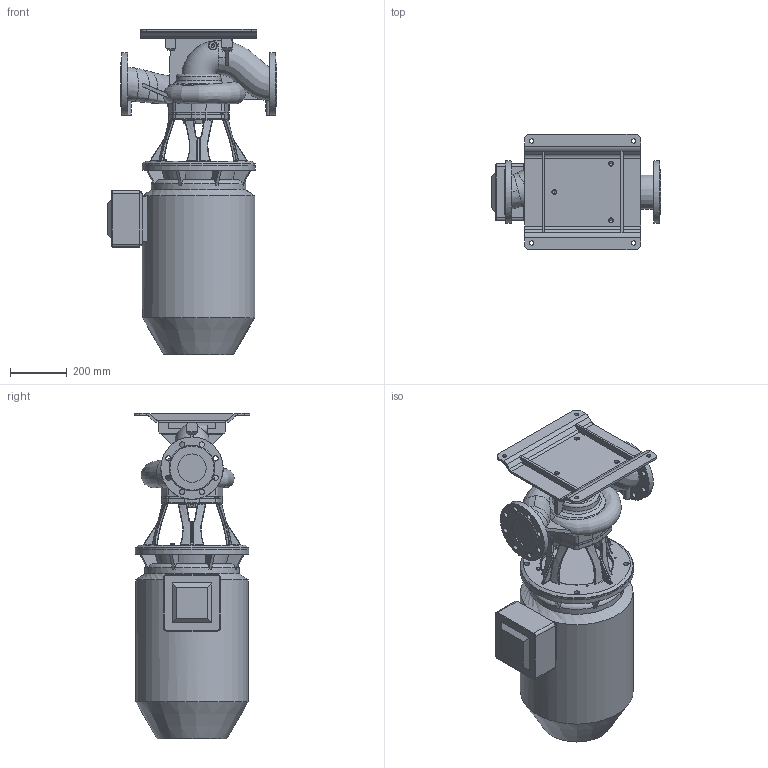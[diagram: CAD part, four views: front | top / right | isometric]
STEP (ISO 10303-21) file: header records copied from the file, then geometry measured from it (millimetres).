
FILE_DESCRIPTION (( 'STEP AP203' ), '1' );
FILE_NAME ('KI100-180_2_30kW.STEP', '2024-03-06T09:01:26', ( '' ), ( '' ), 'SwSTEP 2.0', 'SolidWorks 2023', '' );
FILE_SCHEMA (( 'CONFIG_CONTROL_DESIGN' ));
Length unit declared in the file: millimetre
Products named in the file (11): 440130_solid; 230085; 220426; 230083; DIN EN 24017 - M8x10_ISO 4017 - M8 x 16-N; 230490; KI100-180_2_30kW; 230494; 220480; 220511; 230084
Assembly tree (11 placements, depth 3):
  KI100-180_2_30kW
    230494
      230490
    220480
      220426
    230085
      230083
      230084  x2
    DIN EN 24017 - M8x10_ISO 4017 - M8 x 16-N
    220511
    440130_solid
Bounding box: 597 x 408.67 x 1149.21 mm (x, y, z)
Volume: 97491780.8 mm3; surface area: 2705317.8 mm2
Topology: 8 solids, 8 shells, 1092 faces, 2810 edges, 1699 vertices
Faces by surface type: plane 316, bspline 311, cylinder 265, torus 93, cone 85, sphere 22
Full cylindrical faces by diameter (mm): 5 x4, 6 x3, 6.8 x4, 7 x4, 8 x1, 10.2 x4, 11.8 x4, 13 x1, 14 x7, 14.5 x4, 18 x3, 18.5 x4, 19 x20, 100 x2, 150 x1, 189 x1, 194 x1, 220 x2, 253 x1, 300 x1, 335 x1, 398 x1, 400 x2
Entity records: 80642 total; most frequent: CARTESIAN_POINT 56399, ORIENTED_EDGE 5200, DIRECTION 4216, EDGE_CURVE 2600, AXIS2_PLACEMENT_3D 1717, VERTEX_POINT 1626, EDGE_LOOP 1278, FACE_OUTER_BOUND 1163
